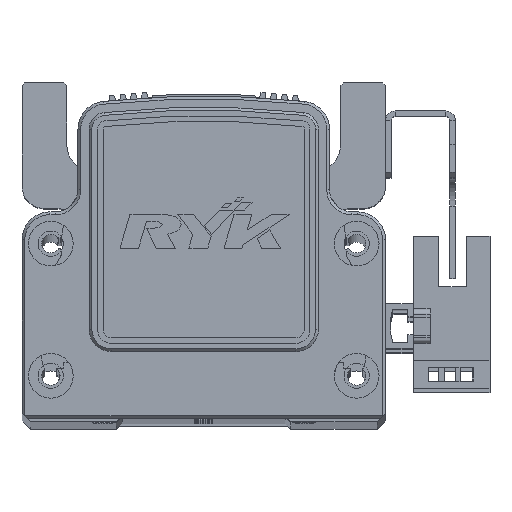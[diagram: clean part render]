
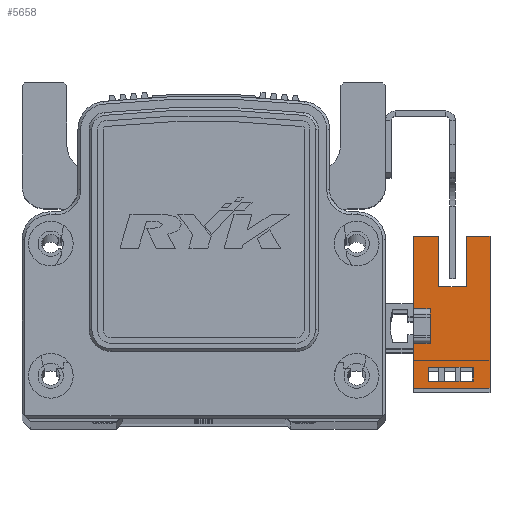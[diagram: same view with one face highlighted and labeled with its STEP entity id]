
A CAD part, top view. The second image highlights one B-rep face of the part: STEP entity #5658.
In plain terms, the highlighted planar face has unit normal (0, 0, 1) as drawn and (1, 0, 0) by its records, which use the part's own axes.
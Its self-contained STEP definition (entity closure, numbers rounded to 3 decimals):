
#909 = VERTEX_POINT ( 'NONE', #1609 ) ;
#920 = VERTEX_POINT ( 'NONE', #1612 ) ;
#922 = VERTEX_POINT ( 'NONE', #1580 ) ;
#939 = VERTEX_POINT ( 'NONE', #1665 ) ;
#941 = VERTEX_POINT ( 'NONE', #1677 ) ;
#945 = VERTEX_POINT ( 'NONE', #1692 ) ;
#949 = VERTEX_POINT ( 'NONE', #1679 ) ;
#950 = VERTEX_POINT ( 'NONE', #1667 ) ;
#952 = VERTEX_POINT ( 'NONE', #1683 ) ;
#1580 = CARTESIAN_POINT ( 'NONE',  ( 3.2, 16.1, -1.5 ) ) ;
#1609 = CARTESIAN_POINT ( 'NONE',  ( 3.2, -7.33, -7.7 ) ) ;
#1612 = CARTESIAN_POINT ( 'NONE',  ( 3.2, 3.1, 0. ) ) ;
#1665 = CARTESIAN_POINT ( 'NONE',  ( 3.2, -3.1, 0. ) ) ;
#1667 = CARTESIAN_POINT ( 'NONE',  ( 3.2, 7.1, -1.5 ) ) ;
#1677 = CARTESIAN_POINT ( 'NONE',  ( 3.2, -7.33, 0.3 ) ) ;
#1679 = CARTESIAN_POINT ( 'NONE',  ( 3.2, 7.1, -6.5 ) ) ;
#1683 = CARTESIAN_POINT ( 'NONE',  ( 3.2, -11.1, -10.7 ) ) ;
#1692 = CARTESIAN_POINT ( 'NONE',  ( 3.2, -9.83, -7.7 ) ) ;
#5658 = ADVANCED_FACE ( 'NONE', ( #10047, #10121 ), #36140, .T. ) ;
#6431 = EDGE_CURVE ( 'NONE', #35935, #35899, #9336, .T. ) ;
#6453 = EDGE_CURVE ( 'NONE', #35866, #35910, #9440, .T. ) ;
#6458 = EDGE_CURVE ( 'NONE', #35889, #35912, #9391, .T. ) ;
#6473 = EDGE_CURVE ( 'NONE', #945, #909, #9461, .T. ) ;
#6486 = EDGE_CURVE ( 'NONE', #941, #35887, #9457, .T. ) ;
#6493 = EDGE_CURVE ( 'NONE', #949, #950, #9459, .T. ) ;
#6496 = EDGE_CURVE ( 'NONE', #35887, #945, #9464, .T. ) ;
#6499 = EDGE_CURVE ( 'NONE', #35912, #949, #9529, .T. ) ;
#6503 = EDGE_CURVE ( 'NONE', #922, #35910, #9504, .T. ) ;
#6504 = EDGE_CURVE ( 'NONE', #920, #35866, #9502, .T. ) ;
#6505 = EDGE_CURVE ( 'NONE', #950, #922, #9547, .T. ) ;
#6524 = EDGE_CURVE ( 'NONE', #952, #35889, #9546, .T. ) ;
#6531 = EDGE_CURVE ( 'NONE', #952, #35935, #9568, .T. ) ;
#6532 = EDGE_CURVE ( 'NONE', #35899, #939, #9582, .T. ) ;
#6533 = EDGE_CURVE ( 'NONE', #939, #920, #9562, .T. ) ;
#6536 = EDGE_CURVE ( 'NONE', #909, #941, #9579, .T. ) ;
#9336 = LINE ( 'NONE', #32995, #9368 ) ;
#9368 = VECTOR ( 'NONE', #33009, 1000. ) ;
#9391 = LINE ( 'NONE', #33063, #9395 ) ;
#9395 = VECTOR ( 'NONE', #33065, 1000. ) ;
#9437 = VECTOR ( 'NONE', #33053, 1000. ) ;
#9440 = LINE ( 'NONE', #33059, #9437 ) ;
#9457 = LINE ( 'NONE', #32791, #9477 ) ;
#9459 = LINE ( 'NONE', #31844, #9490 ) ;
#9461 = LINE ( 'NONE', #33100, #9496 ) ;
#9464 = LINE ( 'NONE', #32410, #9485 ) ;
#9477 = VECTOR ( 'NONE', #32897, 1000. ) ;
#9485 = VECTOR ( 'NONE', #31817, 1000. ) ;
#9490 = VECTOR ( 'NONE', #31843, 1000. ) ;
#9496 = VECTOR ( 'NONE', #33091, 1000. ) ;
#9502 = LINE ( 'NONE', #31824, #9539 ) ;
#9504 = LINE ( 'NONE', #31815, #9552 ) ;
#9514 = VECTOR ( 'NONE', #31813, 1000. ) ;
#9523 = VECTOR ( 'NONE', #31871, 1000. ) ;
#9529 = LINE ( 'NONE', #31838, #9514 ) ;
#9537 = VECTOR ( 'NONE', #31807, 1000. ) ;
#9539 = VECTOR ( 'NONE', #31830, 1000. ) ;
#9546 = LINE ( 'NONE', #31864, #9523 ) ;
#9547 = LINE ( 'NONE', #31840, #9537 ) ;
#9552 = VECTOR ( 'NONE', #31832, 1000. ) ;
#9560 = VECTOR ( 'NONE', #31908, 1000. ) ;
#9562 = LINE ( 'NONE', #31860, #9588 ) ;
#9567 = VECTOR ( 'NONE', #31856, 1000. ) ;
#9568 = LINE ( 'NONE', #31886, #9578 ) ;
#9578 = VECTOR ( 'NONE', #31857, 1000. ) ;
#9579 = LINE ( 'NONE', #31914, #9560 ) ;
#9582 = LINE ( 'NONE', #31887, #9567 ) ;
#9588 = VECTOR ( 'NONE', #31913, 1000. ) ;
#10047 = FACE_OUTER_BOUND ( 'NONE', #38525, .T. ) ;
#10121 = FACE_BOUND ( 'NONE', #38511, .T. ) ;
#13232 = ORIENTED_EDGE ( 'NONE', *, *, #6505, .T. ) ;
#13256 = ORIENTED_EDGE ( 'NONE', *, *, #6503, .T. ) ;
#13257 = ORIENTED_EDGE ( 'NONE', *, *, #6493, .T. ) ;
#13271 = ORIENTED_EDGE ( 'NONE', *, *, #6499, .T. ) ;
#13278 = ORIENTED_EDGE ( 'NONE', *, *, #6473, .F. ) ;
#13280 = ORIENTED_EDGE ( 'NONE', *, *, #6496, .F. ) ;
#13300 = ORIENTED_EDGE ( 'NONE', *, *, #6431, .F. ) ;
#13302 = ORIENTED_EDGE ( 'NONE', *, *, #6532, .F. ) ;
#13304 = ORIENTED_EDGE ( 'NONE', *, *, #6533, .F. ) ;
#13305 = ORIENTED_EDGE ( 'NONE', *, *, #6536, .F. ) ;
#13309 = ORIENTED_EDGE ( 'NONE', *, *, #6486, .F. ) ;
#13310 = ORIENTED_EDGE ( 'NONE', *, *, #6458, .T. ) ;
#13311 = ORIENTED_EDGE ( 'NONE', *, *, #6453, .F. ) ;
#13313 = ORIENTED_EDGE ( 'NONE', *, *, #6504, .F. ) ;
#13315 = ORIENTED_EDGE ( 'NONE', *, *, #6531, .F. ) ;
#13329 = ORIENTED_EDGE ( 'NONE', *, *, #6524, .T. ) ;
#18386 = CARTESIAN_POINT ( 'NONE',  ( 3.2, 16.1, -6.5 ) ) ;
#18388 = CARTESIAN_POINT ( 'NONE',  ( 3.2, -11.1, 3. ) ) ;
#18390 = CARTESIAN_POINT ( 'NONE',  ( 3.2, -3.1, 3. ) ) ;
#18394 = CARTESIAN_POINT ( 'NONE',  ( 3.2, -9.83, 0.3 ) ) ;
#18403 = CARTESIAN_POINT ( 'NONE',  ( 3.2, 16.1, 3. ) ) ;
#18414 = CARTESIAN_POINT ( 'NONE',  ( 3.2, 3.1, 3. ) ) ;
#18434 = CARTESIAN_POINT ( 'NONE',  ( 3.2, 16.1, -10.7 ) ) ;
#31066 = AXIS2_PLACEMENT_3D ( 'NONE', #36166, #36254, #36287 ) ;
#31807 = DIRECTION ( 'NONE',  ( 0., 1., 0. ) ) ;
#31813 = DIRECTION ( 'NONE',  ( 0., -1., 0. ) ) ;
#31815 = CARTESIAN_POINT ( 'NONE',  ( 3.2, 16.1, -10.7 ) ) ;
#31817 = DIRECTION ( 'NONE',  ( 0., 0., -1. ) ) ;
#31824 = CARTESIAN_POINT ( 'NONE',  ( 3.2, 3.1, 3. ) ) ;
#31830 = DIRECTION ( 'NONE',  ( 0., 0., 1. ) ) ;
#31832 = DIRECTION ( 'NONE',  ( 0., 0., 1. ) ) ;
#31838 = CARTESIAN_POINT ( 'NONE',  ( 3.2, 25.1, -6.5 ) ) ;
#31840 = CARTESIAN_POINT ( 'NONE',  ( 3.2, 25.1, -1.5 ) ) ;
#31843 = DIRECTION ( 'NONE',  ( 0., 0., 1. ) ) ;
#31844 = CARTESIAN_POINT ( 'NONE',  ( 3.2, 7.1, -6.5 ) ) ;
#31856 = DIRECTION ( 'NONE',  ( 0., 0., -1. ) ) ;
#31857 = DIRECTION ( 'NONE',  ( 0., 0., 1. ) ) ;
#31860 = CARTESIAN_POINT ( 'NONE',  ( 3.2, 0., 0. ) ) ;
#31864 = CARTESIAN_POINT ( 'NONE',  ( 3.2, 16.1, -10.7 ) ) ;
#31871 = DIRECTION ( 'NONE',  ( 0., 1., 0. ) ) ;
#31886 = CARTESIAN_POINT ( 'NONE',  ( 3.2, -11.1, 3. ) ) ;
#31887 = CARTESIAN_POINT ( 'NONE',  ( 3.2, -3.1, 3. ) ) ;
#31908 = DIRECTION ( 'NONE',  ( 0., 0., 1. ) ) ;
#31913 = DIRECTION ( 'NONE',  ( 0., 1., 0. ) ) ;
#31914 = CARTESIAN_POINT ( 'NONE',  ( 3.2, -7.33, -10.7 ) ) ;
#32410 = CARTESIAN_POINT ( 'NONE',  ( 3.2, -9.83, -10.7 ) ) ;
#32791 = CARTESIAN_POINT ( 'NONE',  ( 3.2, 16.1, 0.3 ) ) ;
#32897 = DIRECTION ( 'NONE',  ( 0., -1., 0. ) ) ;
#32995 = CARTESIAN_POINT ( 'NONE',  ( 3.2, 16.1, 3. ) ) ;
#33009 = DIRECTION ( 'NONE',  ( 0., 1., 0. ) ) ;
#33053 = DIRECTION ( 'NONE',  ( 0., 1., 0. ) ) ;
#33059 = CARTESIAN_POINT ( 'NONE',  ( 3.2, 16.1, 3. ) ) ;
#33063 = CARTESIAN_POINT ( 'NONE',  ( 3.2, 16.1, -10.7 ) ) ;
#33065 = DIRECTION ( 'NONE',  ( 0., 0., 1. ) ) ;
#33091 = DIRECTION ( 'NONE',  ( 0., 1., 0. ) ) ;
#33100 = CARTESIAN_POINT ( 'NONE',  ( 3.2, 16.1, -7.7 ) ) ;
#35866 = VERTEX_POINT ( 'NONE', #18414 ) ;
#35887 = VERTEX_POINT ( 'NONE', #18394 ) ;
#35889 = VERTEX_POINT ( 'NONE', #18434 ) ;
#35899 = VERTEX_POINT ( 'NONE', #18390 ) ;
#35910 = VERTEX_POINT ( 'NONE', #18403 ) ;
#35912 = VERTEX_POINT ( 'NONE', #18386 ) ;
#35935 = VERTEX_POINT ( 'NONE', #18388 ) ;
#36140 = PLANE ( 'NONE',  #31066 ) ;
#36166 = CARTESIAN_POINT ( 'NONE',  ( 3.2, 16.1, -10.7 ) ) ;
#36254 = DIRECTION ( 'NONE',  ( 1., 0., 0. ) ) ;
#36287 = DIRECTION ( 'NONE',  ( 0., 1., 0. ) ) ;
#38511 = EDGE_LOOP ( 'NONE', ( #13309, #13305, #13278, #13280 ) ) ;
#38525 = EDGE_LOOP ( 'NONE', ( #13271, #13257, #13232, #13256, #13311, #13313, #13304, #13302, #13300, #13315, #13329, #13310 ) ) ;
